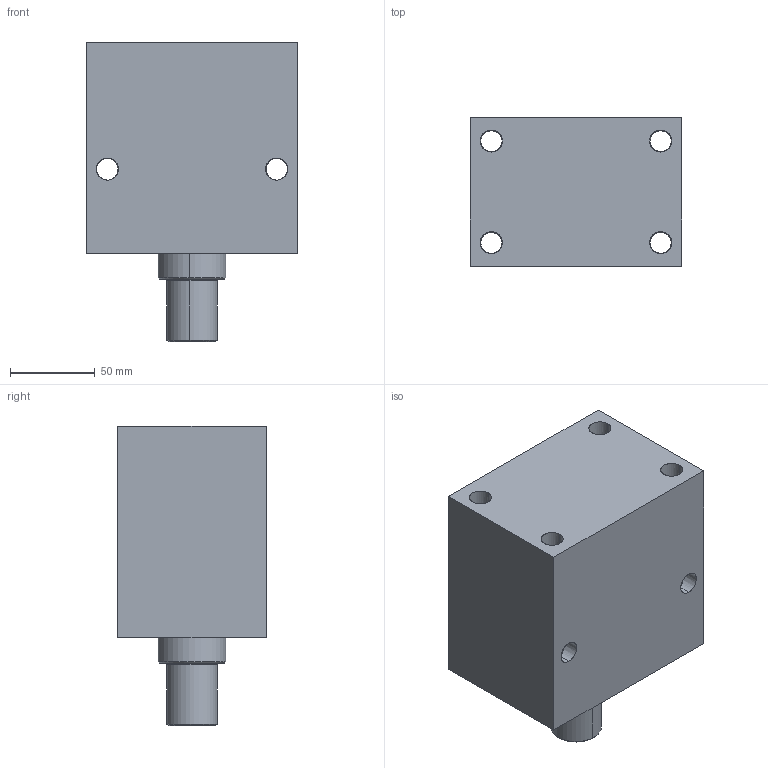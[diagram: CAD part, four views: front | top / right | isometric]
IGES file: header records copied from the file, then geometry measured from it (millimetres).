
Start section: SolidWorks IGES file using analytic representation for surfaces
Global section: file name: D:\karuppas\Clasp\3D model\Block cylinder B01C-Male thread - Copy\B01C-650M\Block cylinder B01C-650M.IGS; native system: SolidWorks 2017; preprocessor: SolidWorks 2017; author: pc; date: 220709.234520; units: millimetre
Bounding box: 125 x 88 x 177 mm (x, y, z)
Surface area: 127550.9 mm2 (no closed solid volume)
Topology: 0 solids, 0 shells, 354 faces, 5592 edges, 5588 vertices
Faces by surface type: bspline 300, revolution 54
